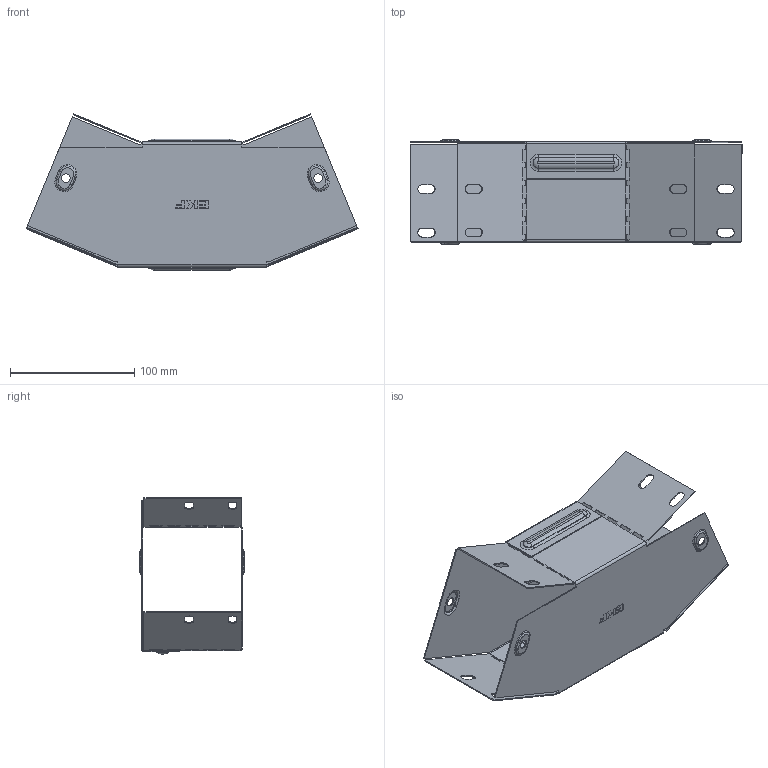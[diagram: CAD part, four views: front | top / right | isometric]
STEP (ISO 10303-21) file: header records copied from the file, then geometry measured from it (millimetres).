
FILE_DESCRIPTION (( 'STEP AP214' ), '1' );
FILE_NAME ('g4580100_捘.STEP', '2019-06-10T08:34:37', ( '砐錪賧瘔蠈錪 Windows' ), ( '' ), 'SwSTEP 2.0', 'SolidWorks 2018', '' );
FILE_SCHEMA (( 'AUTOMOTIVE_DESIGN' ));
Length unit declared in the file: millimetre
Products named in the file (1): g4580100_捘
Bounding box: 266.88 x 83.8 x 125.42 mm (x, y, z)
Volume: 69543.4 mm3; surface area: 176436.1 mm2
Topology: 2 solids, 2 shells, 560 faces, 1548 edges, 980 vertices
Faces by surface type: plane 314, cylinder 164, torus 64, bspline 18
Entity records: 18752 total; most frequent: CARTESIAN_POINT 4108, ORIENTED_EDGE 3096, DIRECTION 3022, EDGE_CURVE 1548, LINE 1088, VECTOR 1088, VERTEX_POINT 980, AXIS2_PLACEMENT_3D 967
